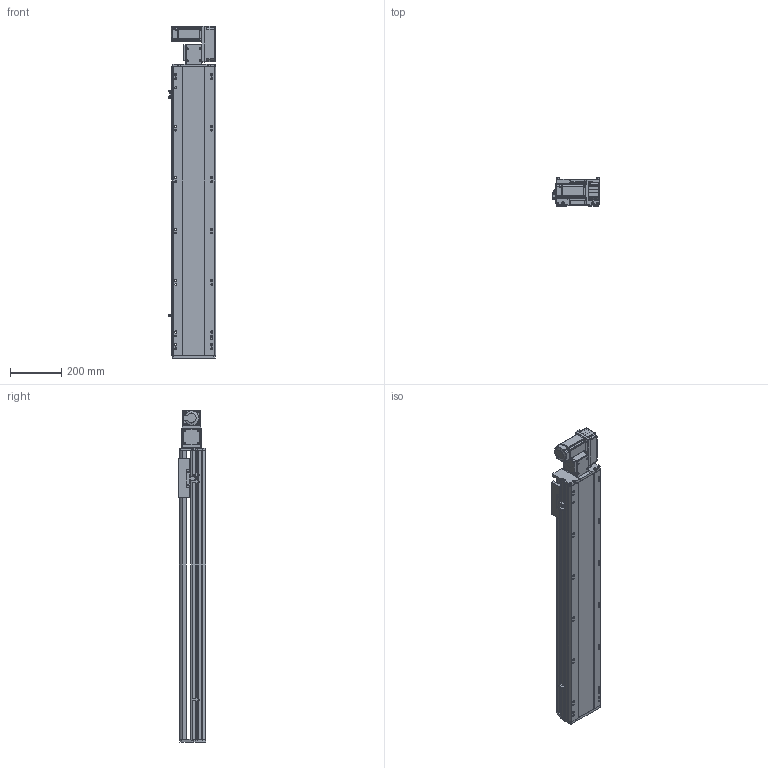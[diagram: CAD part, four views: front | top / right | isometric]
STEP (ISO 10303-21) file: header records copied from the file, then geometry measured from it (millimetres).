
FILE_DESCRIPTION (( 'STEP AP214' ), '1' );
FILE_NAME ('RTB17S-XX-850-R-M40-C4.STEP', '2025-12-11T07:36:52', ( '' ), ( '' ), 'SwSTEP 2.0', 'SolidWorks 2018', '' );
FILE_SCHEMA (( 'AUTOMOTIVE_DESIGN' ));
Length unit declared in the file: millimetre
Products named in the file (14): RTH13-BL-012覜茼え俋离^RTB17S-XX-XX-R-M40-C4; RTB17S-R-々湍釱蚾饜-400W^RTB17S-XX-XX-R-M40-C4; RTB14-L-008-M20--萇儂啣^RTB17S-R-々湍釱蚾饜-400W_RTB17S-XX-XX-R-M40-C4; RTB17S-L-014-T20--々湍釱^RTB17S-R-々湍釱蚾饜-400W_RTB17S-XX-XX-R-M40-C4; RTB17S-L-001耜醱啣^RTB17S-XX-XX-R-M40-C4; RTB17-R-011菁釱^RTB17S-XX-XX-R-M40-C4; RTB17S-L-007奻裔^RTB17S-XX-XX-R-M40-C4; RTB14-L-017P^RTB17S-R-々湍釱蚾饜-400W_RTB17S-XX-XX-R-M40-C4; RTB14-L-005P--轴承塑胶压盖^RTB17S-R-皮带座装配-400W_RTB17S-XX-XX-R-M40-C4; RTB17S-XX-850-R-M40-C4; 400W侜督萇儂^RTB17S-XX-XX-R-M40-C4; RTB14-L-018P^RTB17S-R-々湍釱蚾饜-400W_RTB17S-XX-XX-R-M40-C4; RTB17S-L-004佪裝蹟譫蟀諉釱^RTB17S-XX-XX-R-M40-C4; OMRON EE-SX672 传感器^RTB17S-XX-XX-R-M40-C4
Assembly tree (16 placements, depth 3):
  RTB17S-XX-850-R-M40-C4
    RTB17-R-011菁釱^RTB17S-XX-XX-R-M40-C4
    RTB17S-L-007奻裔^RTB17S-XX-XX-R-M40-C4
    OMRON EE-SX672 传感器^RTB17S-XX-XX-R-M40-C4  x3
    RTB17S-L-001耜醱啣^RTB17S-XX-XX-R-M40-C4
    400W侜督萇儂^RTB17S-XX-XX-R-M40-C4
    RTB17S-L-004佪裝蹟譫蟀諉釱^RTB17S-XX-XX-R-M40-C4
    RTH13-BL-012覜茼え俋离^RTB17S-XX-XX-R-M40-C4
    RTB17S-R-々湍釱蚾饜-400W^RTB17S-XX-XX-R-M40-C4
      RTB17S-L-014-T20--々湍釱^RTB17S-R-々湍釱蚾饜-400W_RTB17S-XX-XX-R-M40-C4
      RTB14-L-005P--轴承塑胶压盖^RTB17S-R-皮带座装配-400W_RTB17S-XX-XX-R-M40-C4
      RTB14-L-008-M20--萇儂啣^RTB17S-R-々湍釱蚾饜-400W_RTB17S-XX-XX-R-M40-C4
      RTB14-L-017P^RTB17S-R-々湍釱蚾饜-400W_RTB17S-XX-XX-R-M40-C4  x2
      RTB14-L-018P^RTB17S-R-々湍釱蚾饜-400W_RTB17S-XX-XX-R-M40-C4
Bounding box: 183.5 x 108 x 1291 mm (x, y, z)
Volume: 11145888.7 mm3; surface area: 1366469.8 mm2
Topology: 15 solids, 15 shells, 2205 faces, 6087 edges, 3969 vertices
Faces by surface type: plane 1068, cylinder 689, bspline 301, cone 139, torus 8
Entity records: 62633 total; most frequent: CARTESIAN_POINT 17492, ORIENTED_EDGE 9018, DIRECTION 8396, EDGE_CURVE 4509, VERTEX_POINT 2957, AXIS2_PLACEMENT_3D 2887, LINE 2622, VECTOR 2622
